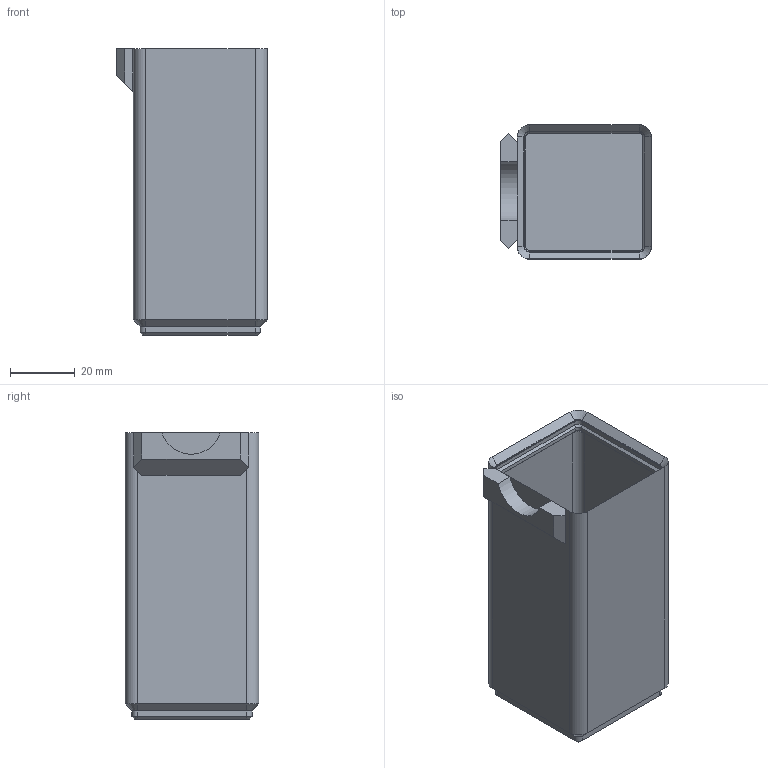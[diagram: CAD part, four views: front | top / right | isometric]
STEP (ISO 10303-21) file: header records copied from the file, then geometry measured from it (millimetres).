
FILE_DESCRIPTION(/* description */ ('','CAx-IF Rec.Pracs.---Representation and Presentation of Product Manufacturing Information (PMI)---4.0---2014-10-13'),/* implementation_level */ '2;1');
FILE_NAME(/* name */ 'Gridfinity 2x Tall Cup with GOEWS hanger.step',/* time_stamp */ '2024-11-29T14:23:56-05:00',/* author */ (''),/* organization */ (''),/* preprocessor_version */ 'ST-DEVELOPER v20',/* originating_system */ 'Autodesk Translation Framework v13.20.0.188',/* authorisation */ '');
FILE_SCHEMA (('AP242_MANAGED_MODEL_BASED_3D_ENGINEERING_MIM_LF { 1 0 10303 442 1 1 4 }'));
Length unit declared in the file: millimetre
Products named in the file (1): FusionComponent
Bounding box: 46.65 x 41.5 x 88.75 mm (x, y, z)
Volume: 26418.2 mm3; surface area: 30691.2 mm2
Topology: 1 solids, 1 shells, 127 faces, 257 edges, 140 vertices
Faces by surface type: plane 70, cylinder 33, cone 24
Full cylindrical faces by diameter (mm): 3 x4, 6.5 x4
Entity records: 3222 total; most frequent: DIRECTION 583, CARTESIAN_POINT 525, ORIENTED_EDGE 514, EDGE_CURVE 257, AXIS2_PLACEMENT_3D 198, LINE 187, VECTOR 187, VERTEX_POINT 140
